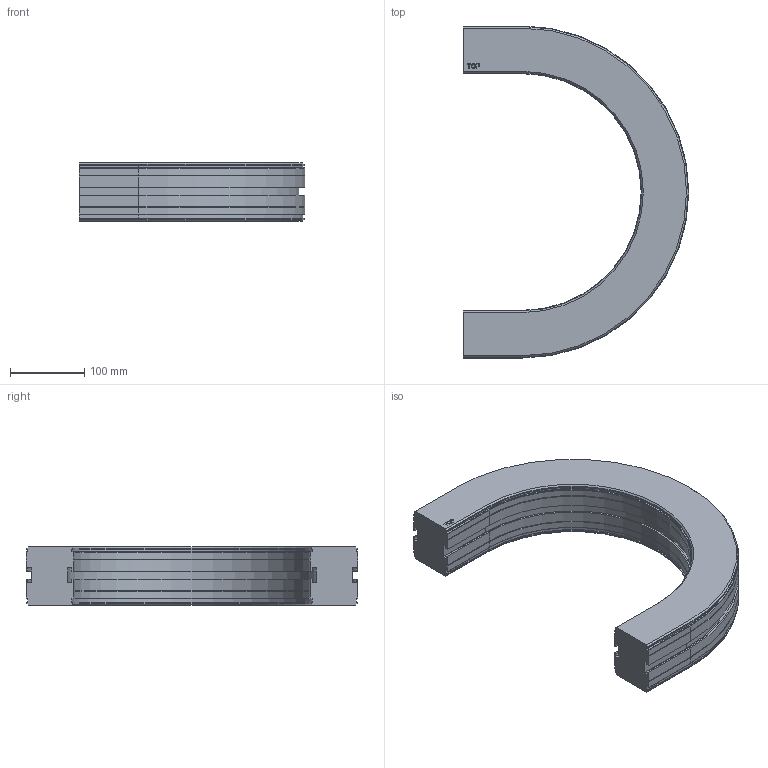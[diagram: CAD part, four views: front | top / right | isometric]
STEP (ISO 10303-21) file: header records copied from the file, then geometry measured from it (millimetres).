
FILE_DESCRIPTION((''),'2;1');
FILE_NAME('C:\Vault Klient\Projekt\Koncept konstruktion\Serie 620 Balk\620-5170.stp','2009-11-26T14:47:21',('Mathias'),(''),'Autodesk Inventor 2010','Autodesk Inventor 2010','');
FILE_SCHEMA(('AUTOMOTIVE_DESIGN { 1 0 10303 214 1 1 1 1 }'));
Length unit declared in the file: millimetre
Products named in the file (1): 620-5170
Bounding box: 303 x 446 x 78 mm (x, y, z)
Volume: 3534533.5 mm3; surface area: 283314.6 mm2
Topology: 1 solids, 1 shells, 169 faces, 446 edges, 284 vertices
Faces by surface type: plane 109, cylinder 30, bspline 14, cone 12, torus 4
Entity records: 5295 total; most frequent: CARTESIAN_POINT 1094, ORIENTED_EDGE 892, DIRECTION 802, EDGE_CURVE 446, VECTOR 346, LINE 346, VERTEX_POINT 284, AXIS2_PLACEMENT_3D 228
